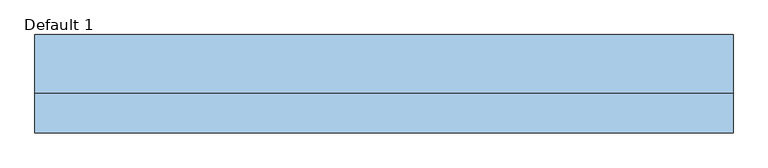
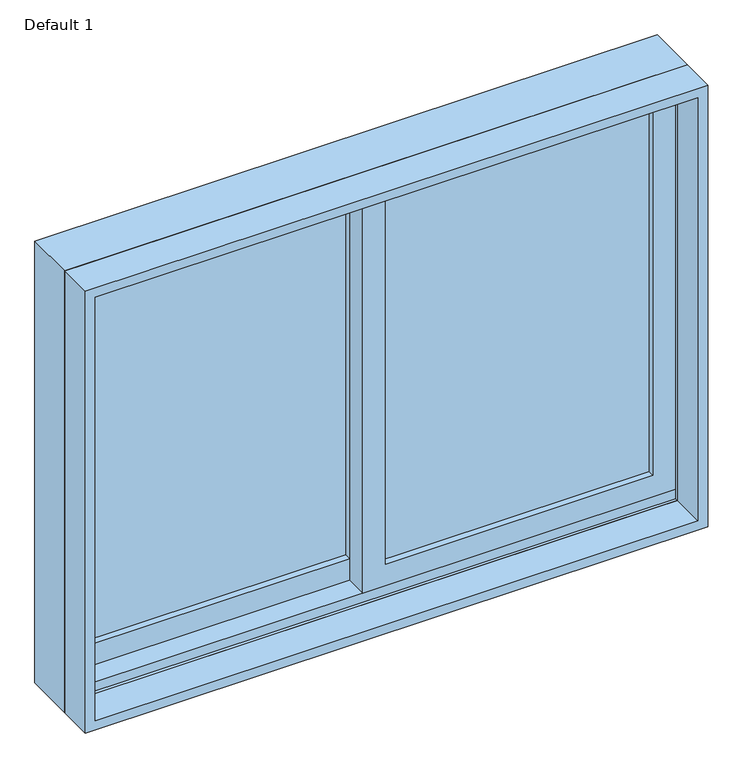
"""IFC4 building model written with IfcOpenShell, lengths in millimetres: window geometry, Planitar-Sliding-Double : Default 1."""

from ifc_helpers import new_model, si_unit, frame, origin, place, context, project, spatial, polyline, outline, extrude, faceted_brep, source, transform, mapped, element, save


def default_1_cc5ff5b1(model_context):
    return source(origin(), model_context, "Body", "SolidModel", [
        extrude(outline(polyline([(933.45, -590.55), (933.45, 22.225), (1809.75, 22.225), (1809.75, -590.55), (933.45, -590.55)]), holes=[polyline([(1765.3, -22.225), (996.95, -22.225), (996.95, -546.1), (1765.3, -546.1), (1765.3, -22.225)])]), frame((0.0, 40.64, 0.0), z_axis=(0.0, 1.0, 0.0), x_axis=(0.0, 0.0, 1.0)), (0.0, 0.0, 1.0), 44.45),
        extrude(outline(polyline([(952.5, 590.55), (1809.75, 590.55), (1809.75, -22.225), (952.5, -22.225), (952.5, 590.55)]), holes=[polyline([(996.95, 22.225), (1765.3, 22.225), (1765.3, 546.1), (996.95, 546.1), (996.95, 22.225)])]), frame((0.0, -3.81, 0.0), z_axis=(0.0, 1.0, 0.0), x_axis=(0.0, 0.0, 1.0)), (0.0, 0.0, 1.0), 44.45),
        faceted_brep([(-609.6, -10.16, 914.4), (-609.6, 91.44, 914.4), (609.6, 91.44, 914.4), (609.6, -10.16, 914.4), (-568.6778905, 91.44, 1787.8778905), (-568.6778905, 85.09, 1787.8778905), (-568.6778905, 85.09, 933.45), (-568.6778905, 91.44, 933.45), (568.6778905, 85.09, 1787.8778905), (568.6778905, 85.09, 933.45), (590.55, 85.09, 933.45), (590.55, 85.09, 1809.75), (-590.55, 85.09, 1809.75), (-590.55, 85.09, 933.45), (-590.55, -10.16, 1809.75), (-590.55, -10.16, 933.45), (-590.55, -3.81, 933.45), (-590.55, -3.81, 952.5), (-590.55, 40.64, 952.5), (-590.55, 40.64, 933.45), (609.6, -10.16, 1828.8), (-609.6, -10.16, 1828.8), (590.55, -10.16, 1809.75), (590.55, -10.16, 933.45), (-609.6, 91.44, 1828.8), (609.6, 91.44, 1828.8), (568.6778905, 91.44, 933.45), (568.6778905, 91.44, 1787.8778905), (590.55, 40.64, 933.45), (590.55, 40.64, 952.5), (590.55, -3.81, 952.5), (590.55, -3.81, 933.45)], [[[0, 1, 2, 3]], [[4, 5, 6, 7]], [[5, 8, 9, 10, 11, 12, 13, 6]], [[12, 14, 15, 16, 17, 18, 19, 13]], [[0, 3, 20, 21], [22, 23, 15, 14]], [[24, 1, 0, 21]], [[2, 1, 24, 25], [4, 7, 26, 27]], [[5, 4, 27, 8]], [[12, 11, 22, 14]], [[21, 20, 25, 24]], [[8, 27, 26, 9]], [[22, 11, 10, 28, 29, 30, 31, 23]], [[20, 3, 2, 25]], [[26, 7, 6, 13, 19, 28, 10, 9]], [[28, 19, 18, 29]], [[29, 18, 17, 30]], [[30, 17, 16, 31]], [[15, 23, 31, 16]]]),
        extrude(outline(polyline([(1828.8, -609.6), (914.4, -609.6), (914.4, 609.6), (1828.8, 609.6), (1828.8, -609.6)]), holes=[polyline([(1809.75, 590.55), (933.45, 590.55), (933.45, -590.55), (1809.75, -590.55), (1809.75, 590.55)])]), frame((0.0, -80.01, 0.0), z_axis=(0.0, 1.0, 0.0), x_axis=(0.0, 0.0, 1.0)), (0.0, 0.0, 1.0), 69.85),
        extrude(outline(polyline([(546.1, 27.94), (546.1, 21.59), (22.225, 21.59), (22.225, 27.94), (546.1, 27.94)])), frame((0.0, 0.0, 996.95), z_axis=(0.0, 0.0, 1.0), x_axis=(1.0, 0.0, 0.0)), (0.0, 0.0, 1.0), 768.35),
        extrude(outline(polyline([(546.1, 15.24), (546.1, 8.89), (22.225, 8.89), (22.225, 15.24), (546.1, 15.24)])), frame((0.0, 0.0, 996.95), z_axis=(0.0, 0.0, 1.0), x_axis=(1.0, 0.0, 0.0)), (0.0, 0.0, 1.0), 768.35),
        extrude(outline(polyline([(-22.225, 72.39), (-22.225, 66.04), (-546.1, 66.04), (-546.1, 72.39), (-22.225, 72.39)])), frame((0.0, 0.0, 996.95), z_axis=(0.0, 0.0, 1.0), x_axis=(1.0, 0.0, 0.0)), (0.0, 0.0, 1.0), 768.35),
        extrude(outline(polyline([(-22.225, 59.69), (-22.225, 53.34), (-546.1, 53.34), (-546.1, 59.69), (-22.225, 59.69)])), frame((0.0, 0.0, 996.95), z_axis=(0.0, 0.0, 1.0), x_axis=(1.0, 0.0, 0.0)), (0.0, 0.0, 1.0), 768.35),
    ])


if __name__ == "__main__":
    model = new_model("IFC4")
    model_context = context("Model", 3, world=origin())
    ifc_project = project(units=[si_unit("LENGTHUNIT", "METRE", prefix="MILLI")], contexts=[model_context])
    site = spatial("IfcSite", under=ifc_project)
    building = spatial("IfcBuilding", under=site)
    placement = place(None, origin())
    default_1_shape = default_1_cc5ff5b1(model_context)
    element("IfcWindow", 1, ObjectType="Planitar-Sliding-Double : Default 1", at=placement, inside=building, context=model_context, shape_type="MappedRepresentation", body=[
        mapped(default_1_shape, transform((0.0, 0.0, 0.0), x_axis=(1.0, 0.0, 0.0), y_axis=(0.0, 1.0, 0.0), z_axis=(0.0, 0.0, 1.0))),
    ])
    save(model, "model.ifc")
